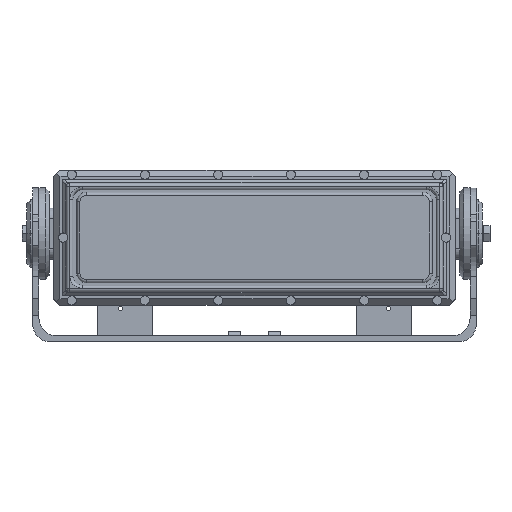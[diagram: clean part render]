
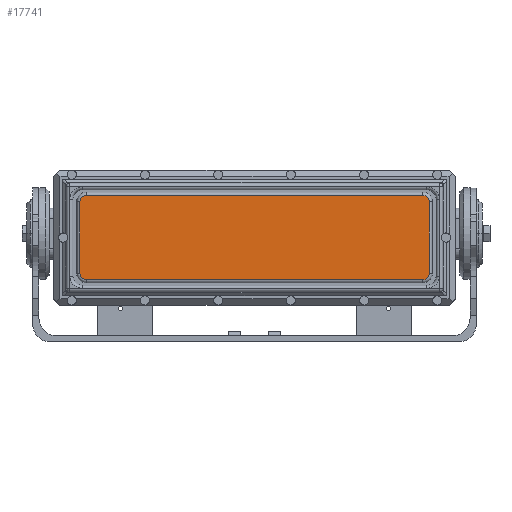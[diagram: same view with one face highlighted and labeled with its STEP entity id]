
A CAD part, top view. The second image highlights one B-rep face of the part: STEP entity #17741.
In plain terms, the highlighted planar face has unit normal (0, 0, 1).
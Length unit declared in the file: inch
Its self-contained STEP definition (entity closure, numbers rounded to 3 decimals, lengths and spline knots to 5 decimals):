
#1299 = VERTEX_POINT ( 'NONE', #4450 ) ;
#2706 = AXIS2_PLACEMENT_3D ( 'NONE', #22176, #49376, #26081 ) ;
#3926 = VERTEX_POINT ( 'NONE', #14559 ) ;
#4114 = PLANE ( 'NONE',  #31255 ) ;
#4450 = CARTESIAN_POINT ( 'NONE',  ( -5.425, 1.359, 3.577 ) ) ;
#4770 = ORIENTED_EDGE ( 'NONE', *, *, #46623, .T. ) ;
#5379 = AXIS2_PLACEMENT_3D ( 'NONE', #31397, #8083, #35304 ) ;
#5615 = EDGE_CURVE ( 'NONE', #25038, #28818, #40992, .T. ) ;
#6650 = CARTESIAN_POINT ( 'NONE',  ( -5.625, -1.159, 3.577 ) ) ;
#6694 = CIRCLE ( 'NONE', #9100, 0.2 ) ;
#8083 = DIRECTION ( 'NONE',  ( 0., 0., 1. ) ) ;
#8694 = EDGE_LOOP ( 'NONE', ( #38741, #41742, #48821, #9433, #4770, #46918, #32292, #24913 ) ) ;
#9100 = AXIS2_PLACEMENT_3D ( 'NONE', #15296, #42502, #19213 ) ;
#9167 = VERTEX_POINT ( 'NONE', #6650 ) ;
#9224 = EDGE_CURVE ( 'NONE', #9167, #3926, #6694, .T. ) ;
#9433 = ORIENTED_EDGE ( 'NONE', *, *, #31869, .T. ) ;
#11970 = DIRECTION ( 'NONE',  ( 1., 0., 0. ) ) ;
#12466 = CARTESIAN_POINT ( 'NONE',  ( 5.625, 0., 3.577 ) ) ;
#13150 = FACE_OUTER_BOUND ( 'NONE', #8694, .T. ) ;
#14559 = CARTESIAN_POINT ( 'NONE',  ( -5.425, -1.359, 3.577 ) ) ;
#15296 = CARTESIAN_POINT ( 'NONE',  ( -5.425, -1.159, 3.577 ) ) ;
#16240 = CARTESIAN_POINT ( 'NONE',  ( 5.425, -1.159, 3.577 ) ) ;
#17433 = VERTEX_POINT ( 'NONE', #40290 ) ;
#17741 = ADVANCED_FACE ( 'NONE', ( #13150 ), #4114, .T. ) ;
#18276 = CARTESIAN_POINT ( 'NONE',  ( 0., -1.359, 3.577 ) ) ;
#18751 = EDGE_CURVE ( 'NONE', #28818, #1299, #24746, .T. ) ;
#19213 = DIRECTION ( 'NONE',  ( 1., 0., 0. ) ) ;
#19906 = CIRCLE ( 'NONE', #2706, 0.2 ) ;
#20142 = DIRECTION ( 'NONE',  ( 1., 0., 0. ) ) ;
#22176 = CARTESIAN_POINT ( 'NONE',  ( -5.425, 1.159, 3.577 ) ) ;
#24699 = CARTESIAN_POINT ( 'NONE',  ( -5.625, 1.159, 3.577 ) ) ;
#24746 = LINE ( 'NONE', #27023, #33849 ) ;
#24913 = ORIENTED_EDGE ( 'NONE', *, *, #41362, .T. ) ;
#25038 = VERTEX_POINT ( 'NONE', #30647 ) ;
#25652 = EDGE_CURVE ( 'NONE', #3926, #17433, #37974, .T. ) ;
#26020 = AXIS2_PLACEMENT_3D ( 'NONE', #16240, #43443, #20142 ) ;
#26081 = DIRECTION ( 'NONE',  ( 1., 0., 0. ) ) ;
#26925 = VERTEX_POINT ( 'NONE', #46735 ) ;
#26972 = VECTOR ( 'NONE', #47673, 39.37008 ) ;
#27023 = CARTESIAN_POINT ( 'NONE',  ( 0., 1.359, 3.577 ) ) ;
#28818 = VERTEX_POINT ( 'NONE', #45835 ) ;
#29480 = VECTOR ( 'NONE', #39122, 39.37008 ) ;
#30647 = CARTESIAN_POINT ( 'NONE',  ( 5.625, 1.159, 3.577 ) ) ;
#30700 = LINE ( 'NONE', #35025, #29480 ) ;
#31255 = AXIS2_PLACEMENT_3D ( 'NONE', #50409, #35284, #11970 ) ;
#31397 = CARTESIAN_POINT ( 'NONE',  ( 5.425, 1.159, 3.577 ) ) ;
#31869 = EDGE_CURVE ( 'NONE', #1299, #34562, #19906, .T. ) ;
#32292 = ORIENTED_EDGE ( 'NONE', *, *, #25652, .T. ) ;
#33849 = VECTOR ( 'NONE', #34846, 39.37008 ) ;
#34562 = VERTEX_POINT ( 'NONE', #24699 ) ;
#34846 = DIRECTION ( 'NONE',  ( -1., 0., 0. ) ) ;
#35025 = CARTESIAN_POINT ( 'NONE',  ( -5.625, 0., 3.577 ) ) ;
#35284 = DIRECTION ( 'NONE',  ( 0., 0., 1. ) ) ;
#35304 = DIRECTION ( 'NONE',  ( 1., 0., 0. ) ) ;
#37974 = LINE ( 'NONE', #18276, #39233 ) ;
#38741 = ORIENTED_EDGE ( 'NONE', *, *, #39869, .T. ) ;
#39122 = DIRECTION ( 'NONE',  ( 0., -1., 0. ) ) ;
#39233 = VECTOR ( 'NONE', #45486, 39.37008 ) ;
#39869 = EDGE_CURVE ( 'NONE', #26925, #25038, #46436, .T. ) ;
#40290 = CARTESIAN_POINT ( 'NONE',  ( 5.425, -1.359, 3.577 ) ) ;
#40992 = CIRCLE ( 'NONE', #5379, 0.2 ) ;
#41362 = EDGE_CURVE ( 'NONE', #17433, #26925, #46402, .T. ) ;
#41742 = ORIENTED_EDGE ( 'NONE', *, *, #5615, .T. ) ;
#42502 = DIRECTION ( 'NONE',  ( 0., 0., 1. ) ) ;
#43443 = DIRECTION ( 'NONE',  ( 0., 0., 1. ) ) ;
#45486 = DIRECTION ( 'NONE',  ( 1., 0., 0. ) ) ;
#45835 = CARTESIAN_POINT ( 'NONE',  ( 5.425, 1.359, 3.577 ) ) ;
#46402 = CIRCLE ( 'NONE', #26020, 0.2 ) ;
#46436 = LINE ( 'NONE', #12466, #26972 ) ;
#46623 = EDGE_CURVE ( 'NONE', #34562, #9167, #30700, .T. ) ;
#46735 = CARTESIAN_POINT ( 'NONE',  ( 5.625, -1.159, 3.577 ) ) ;
#46918 = ORIENTED_EDGE ( 'NONE', *, *, #9224, .T. ) ;
#47673 = DIRECTION ( 'NONE',  ( 0., 1., 0. ) ) ;
#48821 = ORIENTED_EDGE ( 'NONE', *, *, #18751, .T. ) ;
#49376 = DIRECTION ( 'NONE',  ( 0., 0., 1. ) ) ;
#50409 = CARTESIAN_POINT ( 'NONE',  ( 0., 0., 3.577 ) ) ;
